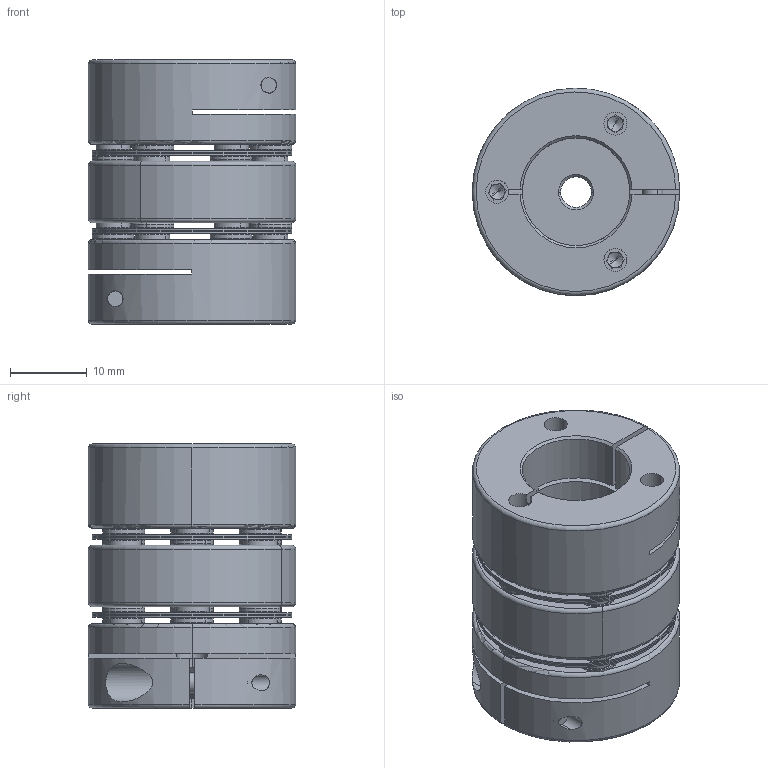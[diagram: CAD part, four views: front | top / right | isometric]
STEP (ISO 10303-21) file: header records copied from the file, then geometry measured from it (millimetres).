
FILE_DESCRIPTION (( 'STEP AP203' ), '1' );
FILE_NAME ('SADW-27C.STEP', '2026-04-23T09:39:24', ( '' ), ( '' ), 'SwSTEP 2.0', 'SolidWorks 2026', '' );
FILE_SCHEMA (( 'CONFIG_CONTROL_DESIGN' ));
Length unit declared in the file: millimetre
Products named in the file (10): SAD-27 BOLT COLLOR; SAD-27 COLLAR; SAD-27 SUS판+COLLAR; KS 1003 - M2.6 x 6 x 6-N_KS 1003 - M2.6 x 6 x 6-N; KS 1003 - M2.6 x 10 x 10-N_KS 1003 - M2.6 x 10 x 10-N; SAD-27C_14; SADW-27C; SAD-27 SUS판_0.2T; SAD-27 중간판; SAD-27C_4
Assembly tree (34 placements, depth 3):
  SADW-27C
    SAD-27 중간판
    SAD-27 SUS판+COLLAR  x2
      SAD-27 SUS판_0.2T
      SAD-27 COLLAR
      SAD-27 BOLT COLLOR
    KS 1003 - M2.6 x 6 x 6-N_KS 1003 - M2.6 x 6 x 6-N  x12
    SAD-27C_14
    SAD-27C_4
    KS 1003 - M2.6 x 10 x 10-N_KS 1003 - M2.6 x 10 x 10-N  x2
Bounding box: 27 x 27 x 34.4 mm (x, y, z)
Volume: 13470.4 mm3; surface area: 15988.1 mm2
Topology: 47 solids, 47 shells, 1088 faces, 2426 edges, 1430 vertices
Faces by surface type: cylinder 379, plane 307, cone 206, torus 190, bspline 6
Entity records: 12386 total; most frequent: CARTESIAN_POINT 2792, DIRECTION 1814, ORIENTED_EDGE 1532, EDGE_CURVE 766, AXIS2_PLACEMENT_3D 760, VERTEX_POINT 474, CIRCLE 410, EDGE_LOOP 398
